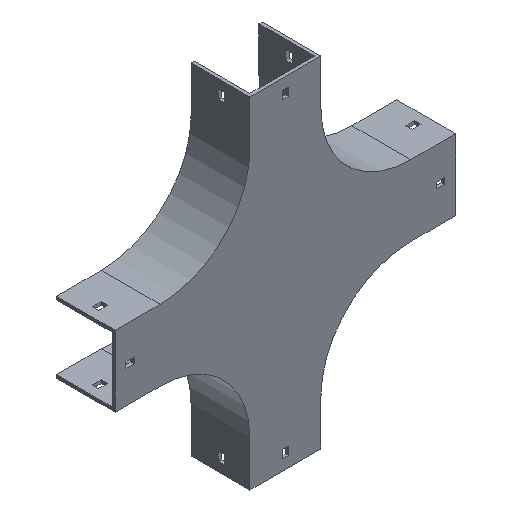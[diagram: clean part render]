
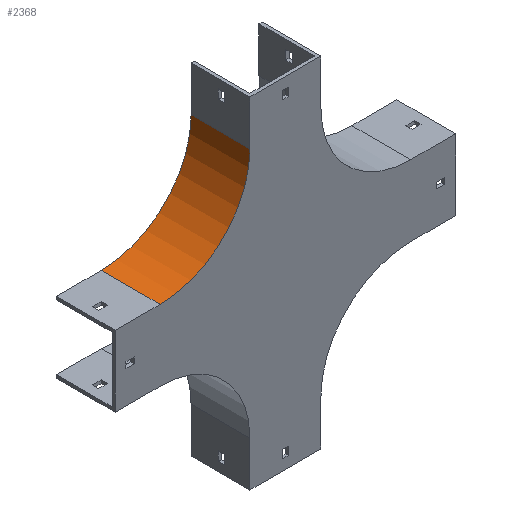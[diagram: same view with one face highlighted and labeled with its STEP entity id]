
A CAD part, isometric view. The second image highlights one B-rep face of the part: STEP entity #2368.
In plain terms, the highlighted cylindrical face has radius 100 mm (diameter 200 mm), a partial arc.
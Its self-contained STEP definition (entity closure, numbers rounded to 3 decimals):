
#7 = ORIENTED_EDGE ( 'NONE', *, *, #449, .F. ) ;
#32 = CIRCLE ( 'NONE', #1576, 100. ) ;
#44 = DIRECTION ( 'NONE',  ( 0., -1., 0. ) ) ;
#48 = CARTESIAN_POINT ( 'NONE',  ( -179., 65.5, 0. ) ) ;
#97 = ORIENTED_EDGE ( 'NONE', *, *, #2585, .F. ) ;
#104 = EDGE_CURVE ( 'NONE', #1724, #1796, #1434, .T. ) ;
#347 = VERTEX_POINT ( 'NONE', #355 ) ;
#355 = CARTESIAN_POINT ( 'NONE',  ( -179., 0., 0. ) ) ;
#358 = DIRECTION ( 'NONE',  ( 0., -1., 0. ) ) ;
#403 = VECTOR ( 'NONE', #358, 1000. ) ;
#410 = DIRECTION ( 'NONE',  ( 0., -1., 0. ) ) ;
#449 = EDGE_CURVE ( 'NONE', #1724, #2247, #32, .T. ) ;
#486 = VECTOR ( 'NONE', #44, 1000. ) ;
#651 = EDGE_LOOP ( 'NONE', ( #1043, #97, #7, #2487 ) ) ;
#761 = AXIS2_PLACEMENT_3D ( 'NONE', #1897, #2688, #1458 ) ;
#784 = CYLINDRICAL_SURFACE ( 'NONE', #761, 100. ) ;
#943 = CARTESIAN_POINT ( 'NONE',  ( -179., 65.5, 0. ) ) ;
#1043 = ORIENTED_EDGE ( 'NONE', *, *, #1826, .T. ) ;
#1067 = CARTESIAN_POINT ( 'NONE',  ( -279., 0., 0. ) ) ;
#1245 = CIRCLE ( 'NONE', #2124, 100. ) ;
#1285 = CARTESIAN_POINT ( 'NONE',  ( -279., 65.5, -100. ) ) ;
#1362 = LINE ( 'NONE', #943, #486 ) ;
#1434 = LINE ( 'NONE', #1285, #403 ) ;
#1458 = DIRECTION ( 'NONE',  ( 0., 0., -1. ) ) ;
#1509 = DIRECTION ( 'NONE',  ( 0., 0., 1. ) ) ;
#1576 = AXIS2_PLACEMENT_3D ( 'NONE', #2319, #410, #2115 ) ;
#1722 = DIRECTION ( 'NONE',  ( 0., -1., 0. ) ) ;
#1724 = VERTEX_POINT ( 'NONE', #1926 ) ;
#1796 = VERTEX_POINT ( 'NONE', #2571 ) ;
#1826 = EDGE_CURVE ( 'NONE', #1796, #347, #1245, .T. ) ;
#1897 = CARTESIAN_POINT ( 'NONE',  ( -279., 65.5, 0. ) ) ;
#1926 = CARTESIAN_POINT ( 'NONE',  ( -279., 65.5, -100. ) ) ;
#2058 = FACE_OUTER_BOUND ( 'NONE', #651, .T. ) ;
#2115 = DIRECTION ( 'NONE',  ( 0., 0., 1. ) ) ;
#2124 = AXIS2_PLACEMENT_3D ( 'NONE', #1067, #1722, #1509 ) ;
#2247 = VERTEX_POINT ( 'NONE', #48 ) ;
#2319 = CARTESIAN_POINT ( 'NONE',  ( -279., 65.5, 0. ) ) ;
#2368 = ADVANCED_FACE ( 'NONE', ( #2058 ), #784, .F. ) ;
#2487 = ORIENTED_EDGE ( 'NONE', *, *, #104, .T. ) ;
#2571 = CARTESIAN_POINT ( 'NONE',  ( -279., 0., -100. ) ) ;
#2585 = EDGE_CURVE ( 'NONE', #2247, #347, #1362, .T. ) ;
#2688 = DIRECTION ( 'NONE',  ( 0., -1., 0. ) ) ;
